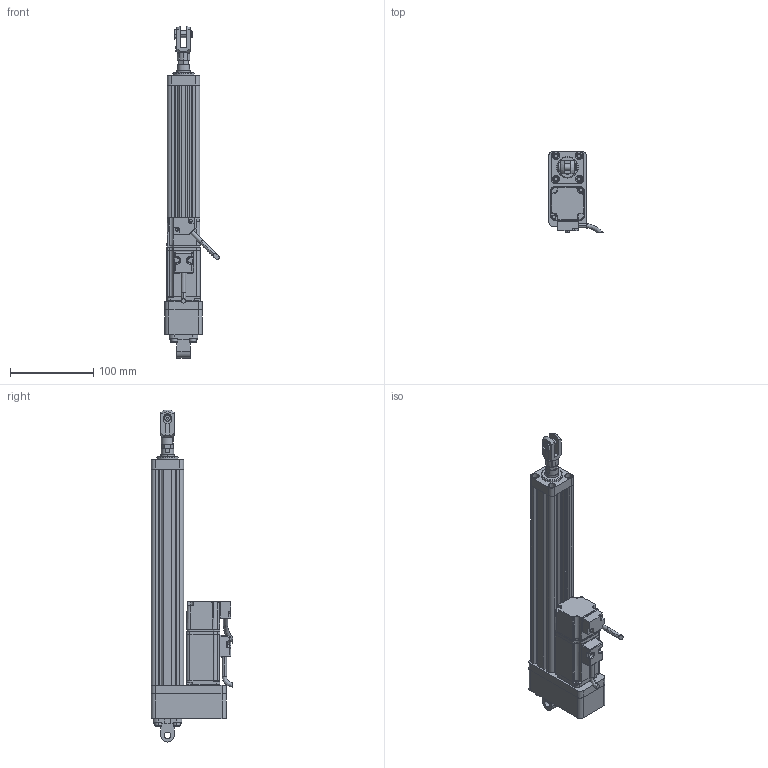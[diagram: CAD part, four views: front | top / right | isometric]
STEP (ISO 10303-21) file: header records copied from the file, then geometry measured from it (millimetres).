
FILE_DESCRIPTION (( 'STEP AP214' ), '1' );
FILE_NAME ('039-S200-D02-B-M5-C3-2.STEP', '2021-03-02T05:21:00', ( '' ), ( '' ), 'SwSTEP 2.0', 'SolidWorks 2018', '' );
FILE_SCHEMA (( 'AUTOMOTIVE_DESIGN' ));
Length unit declared in the file: millimetre
Products named in the file (10): F-ACE20CA_ACE_; ECMA-CX0401ES-40框號系列機種-100W低慣量系列; F-MA20Y; CMC039-LJB; CMC039-HXT; CMC039-GT; GB／T6174-2000六角薄螺母无倒角M8; 039-S200-D02-B-M5-C3-2; CMC039-DT; CMC039-FL
Assembly tree (9 placements, depth 2):
  039-S200-D02-B-M5-C3-2
    CMC039-GT
    CMC039-LJB
    CMC039-FL
    CMC039-DT
    ECMA-CX0401ES-40框號系列機種-100W低慣量系列
    CMC039-HXT
    F-ACE20CA_ACE_
    F-MA20Y
    GB／T6174-2000六角薄螺母无倒角M8
Bounding box: 65.34 x 97.89 x 399 mm (x, y, z)
Volume: 517126.3 mm3; surface area: 167154.8 mm2
Topology: 9 solids, 17 shells, 869 faces, 2270 edges, 1428 vertices
Faces by surface type: plane 355, cylinder 349, bspline 96, cone 69
Entity records: 33330 total; most frequent: CARTESIAN_POINT 12484, ORIENTED_EDGE 4474, DIRECTION 3863, EDGE_CURVE 2237, VERTEX_POINT 1428, AXIS2_PLACEMENT_3D 1376, VECTOR 1111, LINE 1111
